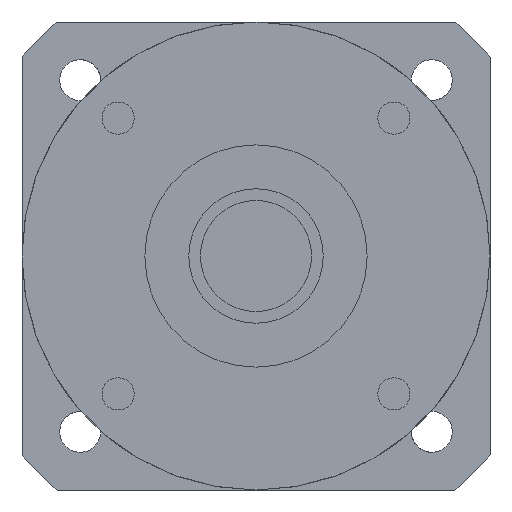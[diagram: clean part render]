
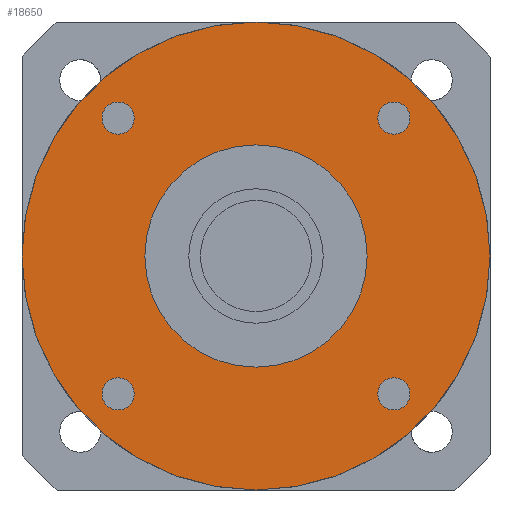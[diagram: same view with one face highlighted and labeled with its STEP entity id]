
A CAD part, left-side view. The second image highlights one B-rep face of the part: STEP entity #18650.
In plain terms, the highlighted planar face has unit normal (-1, 0, 0) as drawn and (0, 0, -1) by its records, which use the part's own axes.
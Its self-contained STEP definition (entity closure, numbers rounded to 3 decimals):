
#17510=CARTESIAN_POINT('',(-40.,0.,-42.));
#17520=VERTEX_POINT('',#17510);
#17610=CARTESIAN_POINT('',(40.,0.,-42.));
#17620=VERTEX_POINT('',#17610);
#17650=CARTESIAN_POINT('',(0.,0.,-42.)
);
#17660=DIRECTION('',(0.,0.,1.));
#17670=DIRECTION('',(1.,0.,0.));
#17680=AXIS2_PLACEMENT_3D('',#17650,#17660,#17670);
#17690=CIRCLE('',#17680,40.);
#17700=CARTESIAN_POINT('',(0.,-40.,-42.));
#17710=VERTEX_POINT('',#17700);
#17720=EDGE_CURVE('',#17710,#17620,#17690,.T.);
#17740=EDGE_CURVE('',#17520,#17710,#17690,.T.);
#17790=CARTESIAN_POINT('',(0.,0.,-42.)
);
#17800=DIRECTION('',(0.,0.,-1.));
#17810=DIRECTION('',(1.,0.,0.));
#17820=AXIS2_PLACEMENT_3D('',#17790,#17800,#17810);
#17830=PLANE('',#17820);
#17840=CARTESIAN_POINT('',(23.571,23.571,-42.));
#17850=DIRECTION('',(0.,0.,-1.));
#17860=DIRECTION('',(0.,1.,0.));
#17870=AXIS2_PLACEMENT_3D('',#17840,#17850,#17860);
#17880=CIRCLE('',#17870,2.75);
#17890=CARTESIAN_POINT('',(23.571,26.321,-42.));
#17900=VERTEX_POINT('',#17890);
#17910=CARTESIAN_POINT('',(23.571,20.821,-42.));
#17920=VERTEX_POINT('',#17910);
#17930=EDGE_CURVE('',#17900,#17920,#17880,.T.);
#17940=ORIENTED_EDGE('',*,*,#17930,.F.);
#17950=EDGE_CURVE('',#17920,#17900,#17880,.T.);
#17960=ORIENTED_EDGE('',*,*,#17950,.F.);
#17970=EDGE_LOOP('',(#17960,#17940));
#17980=FACE_BOUND('',#17970,.T.);
#17990=CARTESIAN_POINT('',(-23.571,23.571,-42.));
#18000=DIRECTION('',(0.,0.,-1.));
#18010=DIRECTION('',(-1.,0.,0.));
#18020=AXIS2_PLACEMENT_3D('',#17990,#18000,#18010);
#18030=CIRCLE('',#18020,2.75);
#18040=CARTESIAN_POINT('',(-26.321,23.571,-42.));
#18050=VERTEX_POINT('',#18040);
#18060=CARTESIAN_POINT('',(-20.821,23.571,-42.));
#18070=VERTEX_POINT('',#18060);
#18080=EDGE_CURVE('',#18050,#18070,#18030,.T.);
#18090=ORIENTED_EDGE('',*,*,#18080,.F.);
#18100=EDGE_CURVE('',#18070,#18050,#18030,.T.);
#18110=ORIENTED_EDGE('',*,*,#18100,.F.);
#18120=EDGE_LOOP('',(#18110,#18090));
#18130=FACE_BOUND('',#18120,.T.);
#18140=CARTESIAN_POINT('',(-23.571,-23.571,-42.));
#18150=DIRECTION('',(0.,0.,-1.));
#18160=DIRECTION('',(0.,-1.,0.));
#18170=AXIS2_PLACEMENT_3D('',#18140,#18150,#18160);
#18180=CIRCLE('',#18170,2.75);
#18190=CARTESIAN_POINT('',(-23.571,-26.321,-42.));
#18200=VERTEX_POINT('',#18190);
#18210=CARTESIAN_POINT('',(-23.571,-20.821,-42.));
#18220=VERTEX_POINT('',#18210);
#18230=EDGE_CURVE('',#18200,#18220,#18180,.T.);
#18240=ORIENTED_EDGE('',*,*,#18230,.F.);
#18250=EDGE_CURVE('',#18220,#18200,#18180,.T.);
#18260=ORIENTED_EDGE('',*,*,#18250,.F.);
#18270=EDGE_LOOP('',(#18260,#18240));
#18280=FACE_BOUND('',#18270,.T.);
#18290=CARTESIAN_POINT('',(0.,0.,
-42.));
#18300=DIRECTION('',(0.,0.,1.));
#18310=DIRECTION('',(1.,0.,0.));
#18320=AXIS2_PLACEMENT_3D('',#18290,#18300,#18310);
#18330=CIRCLE('',#18320,19.);
#18340=CARTESIAN_POINT('',(19.,0.,-42.));
#18350=VERTEX_POINT('',#18340);
#18360=CARTESIAN_POINT('',(-19.,0.,-42.));
#18370=VERTEX_POINT('',#18360);
#18380=EDGE_CURVE('',#18350,#18370,#18330,.T.);
#18390=ORIENTED_EDGE('',*,*,#18380,.T.);
#18400=EDGE_CURVE('',#18370,#18350,#18330,.T.);
#18410=ORIENTED_EDGE('',*,*,#18400,.T.);
#18420=EDGE_LOOP('',(#18410,#18390));
#18430=FACE_BOUND('',#18420,.T.);
#18440=CARTESIAN_POINT('',(23.571,-23.571,-42.));
#18450=DIRECTION('',(0.,0.,-1.));
#18460=DIRECTION('',(1.,0.,0.));
#18470=AXIS2_PLACEMENT_3D('',#18440,#18450,#18460);
#18480=CIRCLE('',#18470,2.75);
#18490=CARTESIAN_POINT('',(26.321,-23.571,-42.));
#18500=VERTEX_POINT('',#18490);
#18510=CARTESIAN_POINT('',(20.821,-23.571,-42.));
#18520=VERTEX_POINT('',#18510);
#18530=EDGE_CURVE('',#18500,#18520,#18480,.T.);
#18540=ORIENTED_EDGE('',*,*,#18530,.F.);
#18550=EDGE_CURVE('',#18520,#18500,#18480,.T.);
#18560=ORIENTED_EDGE('',*,*,#18550,.F.);
#18570=EDGE_LOOP('',(#18560,#18540));
#18580=FACE_BOUND('',#18570,.T.);
#18590=ORIENTED_EDGE('',*,*,#17720,.F.);
#18600=EDGE_CURVE('',#17620,#17520,#17690,.T.);
#18610=ORIENTED_EDGE('',*,*,#18600,.F.);
#18620=ORIENTED_EDGE('',*,*,#17740,.F.);
#18630=EDGE_LOOP('',(#18620,#18610,#18590));
#18640=FACE_OUTER_BOUND('',#18630,.T.);
#18650=ADVANCED_FACE('',(#17980,#18130,#18280,#18430,#18580,#18640),
#17830,.T.);
